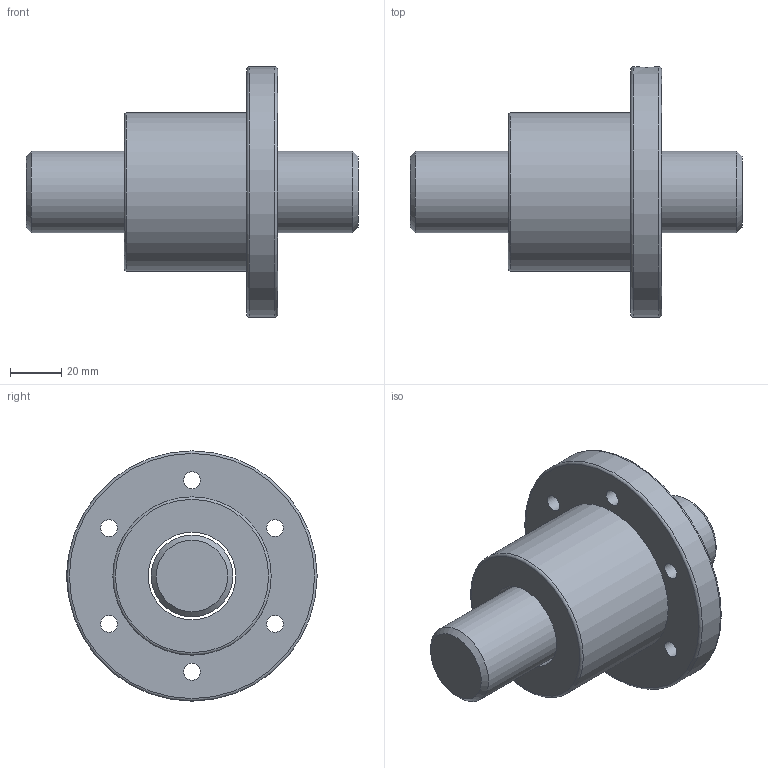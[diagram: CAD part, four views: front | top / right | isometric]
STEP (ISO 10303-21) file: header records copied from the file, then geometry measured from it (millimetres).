
FILE_DESCRIPTION(/* description */ ('Unknown','CAx-IF Rec.Pracs.---Representation and Presentation of Product Manufacturing Information (PMI)---4.0---2014-10-13','CAx-IF Rec.Pracs.---3D Tessellated Geometry---0.4---2014-09-14','2;1'),/* implementation_level */ '2;1');
FILE_NAME(/* name */ 'SFV03206-4.8',/* time_stamp */ '2020-12-08T10:48:17+08:00',/* author */ ('Unknown'),/* organization */ ('Unknown'),/* preprocessor_version */ 'ST-DEVELOPER v16.7',/* originating_system */ 'Solid Edge',/* authorisation */ 'Unknown');
FILE_SCHEMA (('AP242_MANAGED_MODEL_BASED_3D_ENGINEERING_MIM_LF { 1 0 10303 442 1 1 4 }'));
Length unit declared in the file: millimetre
Products named in the file (1): SFV03206-4.8
Bounding box: 130 x 98 x 98 mm (x, y, z)
Volume: 278498.4 mm3; surface area: 49010.7 mm2
Topology: 2 solids, 2 shells, 40 faces, 82 edges, 53 vertices
Faces by surface type: cylinder 20, plane 12, cone 3, torus 3, bspline 2
Full cylindrical faces by diameter (mm): 4 x1, 6.6 x6, 6.917 x1, 11 x6, 32 x1, 34.3 x1, 62 x1, 98 x1
Entity records: 3221 total; most frequent: CARTESIAN_POINT 2385, DIRECTION 168, ORIENTED_EDGE 106, EDGE_LOOP 87, FACE_BOUND 87, AXIS2_PLACEMENT_3D 85, EDGE_CURVE 53, VERTEX_POINT 48
